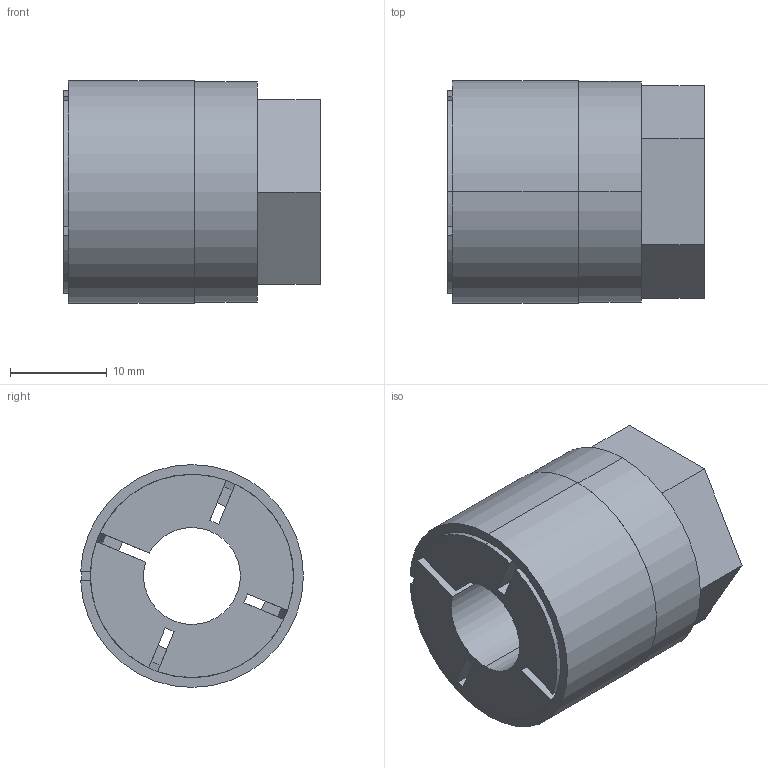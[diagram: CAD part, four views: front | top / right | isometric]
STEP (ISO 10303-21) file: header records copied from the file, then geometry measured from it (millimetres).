
FILE_DESCRIPTION (( 'STEP AP203' ), '1' );
FILE_NAME ('KBS 56 - 10 x 23.STEP', '2015-07-07T20:20:16', ( '' ), ( '' ), 'SwSTEP 2.0', 'SolidWorks 2010', '' );
FILE_SCHEMA (( 'CONFIG_CONTROL_DESIGN' ));
Length unit declared in the file: millimetre
Products named in the file (1): KBS 56 - 10 x 23
Bounding box: 26.5 x 22.99 x 23 mm (x, y, z)
Volume: 7704.5 mm3; surface area: 7318 mm2
Topology: 3 solids, 3 shells, 53 faces, 138 edges, 92 vertices
Faces by surface type: plane 30, cylinder 15, cone 8
Entity records: 1731 total; most frequent: CARTESIAN_POINT 320, DIRECTION 282, ORIENTED_EDGE 276, EDGE_CURVE 138, AXIS2_PLACEMENT_3D 100, VERTEX_POINT 92, VECTOR 82, LINE 82
